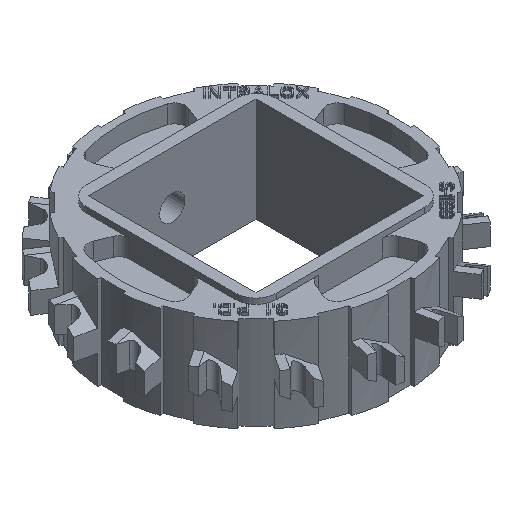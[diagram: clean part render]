
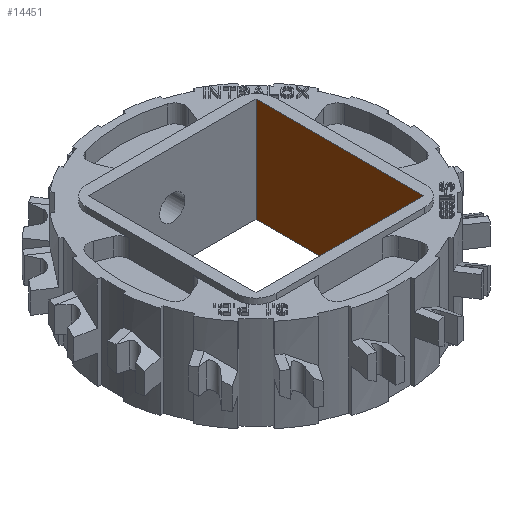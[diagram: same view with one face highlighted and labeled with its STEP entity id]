
A CAD part, isometric view. The second image highlights one B-rep face of the part: STEP entity #14451.
In plain terms, the highlighted planar face has unit normal (-1, 0, 0).
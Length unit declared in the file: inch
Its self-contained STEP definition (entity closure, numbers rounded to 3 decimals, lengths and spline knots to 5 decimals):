
#41=DIRECTION('',(0.,1.,0.));
#42=VECTOR('',#41,1.575);
#43=CARTESIAN_POINT('',(0.7875,-0.7875,0.49));
#44=LINE('',#43,#42);
#2967=DIRECTION('',(0.,0.,-1.));
#2968=VECTOR('',#2967,0.98);
#2969=CARTESIAN_POINT('',(0.7875,0.7875,0.49));
#2970=LINE('',#2969,#2968);
#2981=DIRECTION('',(0.,0.,-1.));
#2982=VECTOR('',#2981,0.98);
#2983=CARTESIAN_POINT('',(0.7875,-0.7875,0.49));
#2984=LINE('',#2983,#2982);
#3033=DIRECTION('',(0.,1.,0.));
#3034=VECTOR('',#3033,1.575);
#3035=CARTESIAN_POINT('',(0.7875,-0.7875,-0.49));
#3036=LINE('',#3035,#3034);
#9453=CARTESIAN_POINT('',(0.7875,-0.7875,0.49));
#9454=VERTEX_POINT('',#9453);
#9455=CARTESIAN_POINT('',(0.7875,0.7875,0.49));
#9456=VERTEX_POINT('',#9455);
#9461=CARTESIAN_POINT('',(0.7875,-0.7875,-0.49));
#9462=VERTEX_POINT('',#9461);
#9463=CARTESIAN_POINT('',(0.7875,0.7875,-0.49));
#9464=VERTEX_POINT('',#9463);
#14438=CARTESIAN_POINT('',(0.7875,-0.7875,0.588));
#14439=DIRECTION('',(1.,0.,0.));
#14440=DIRECTION('',(0.,1.,0.));
#14441=AXIS2_PLACEMENT_3D('',#14438,#14439,#14440);
#14442=PLANE('',#14441);
#14443=ORIENTED_EDGE('',*,*,#12217,.F.);
#14445=ORIENTED_EDGE('',*,*,#14444,.T.);
#14447=ORIENTED_EDGE('',*,*,#14446,.T.);
#14448=ORIENTED_EDGE('',*,*,#14424,.F.);
#14449=EDGE_LOOP('',(#14443,#14445,#14447,#14448));
#14450=FACE_OUTER_BOUND('',#14449,.F.);
#14451=ADVANCED_FACE('',(#14450),#14442,.F.);
#12217=EDGE_CURVE('',#9454,#9456,#44,.T.);
#14424=EDGE_CURVE('',#9456,#9464,#2970,.T.);
#14444=EDGE_CURVE('',#9454,#9462,#2984,.T.);
#14446=EDGE_CURVE('',#9462,#9464,#3036,.T.);
